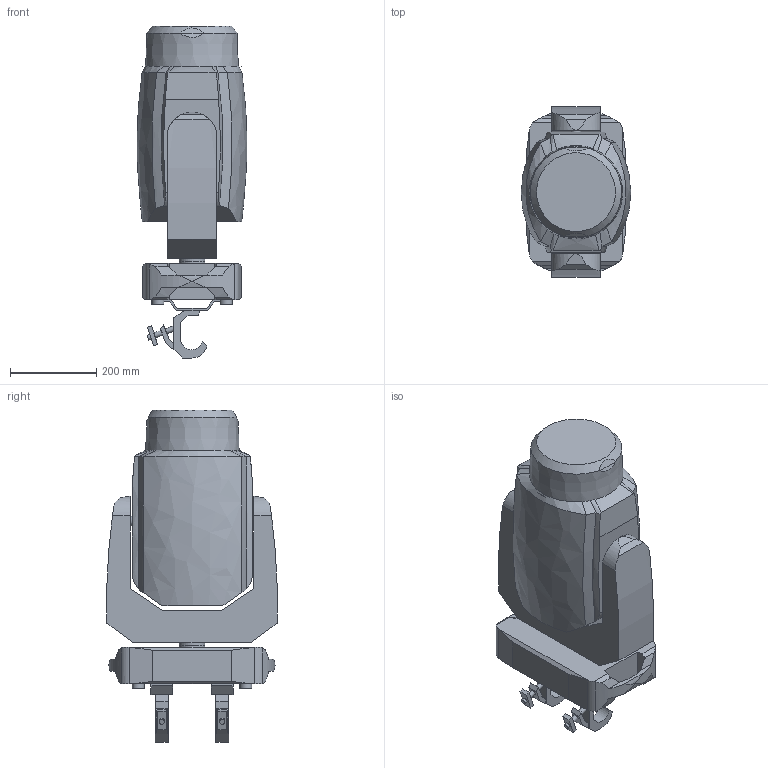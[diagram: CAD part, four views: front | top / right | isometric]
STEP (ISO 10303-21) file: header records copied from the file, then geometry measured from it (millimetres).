
FILE_DESCRIPTION(/* description */ ('Unknown'),/* implementation_level */ '2;1');
FILE_NAME(/* name */ '3D-Robin MegaPointe_00',/* time_stamp */ '2017-07-26T14:21:57+02:00',/* author */ ('Ing.Rostislav HĂˇba'),/* organization */ ('ROBE lighting'),/* preprocessor_version */ 'ST-DEVELOPER v16.7',/* originating_system */ 'DEX',/* authorisation */ $);
FILE_SCHEMA (('AUTOMOTIVE_DESIGN {1 0 10303 214 3 1 1}'));
Length unit declared in the file: millimetre
Products named in the file (7): 3D-Robin MegaPointe; MP_base; MP_arm; MP_head; Omega_SlimClamp; Omega+SlimClamp; Clamp Doughty Slimline QT
Assembly tree (7 placements, depth 3):
  3D-Robin MegaPointe
    MP_base
    MP_arm
    MP_head
    Omega_SlimClamp  x2
      Omega+SlimClamp
      Clamp Doughty Slimline QT
Bounding box: 254.18 x 394.88 x 769.1 mm (x, y, z)
Volume: 36376728.1 mm3; surface area: 1160900.5 mm2
Topology: 9 solids, 9 shells, 240 faces, 628 edges, 418 vertices
Faces by surface type: plane 154, cylinder 60, bspline 24, cone 2
Full cylindrical faces by diameter (mm): 11 x8, 12 x8, 13 x2, 22 x2, 28 x4, 60 x2
Entity records: 6761 total; most frequent: CARTESIAN_POINT 2185, ORIENTED_EDGE 916, DIRECTION 845, EDGE_CURVE 458, VERTEX_POINT 313, AXIS2_PLACEMENT_3D 304, EDGE_LOOP 239, FACE_BOUND 239
